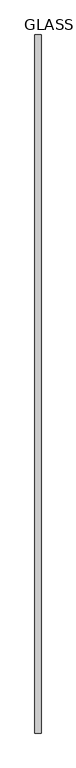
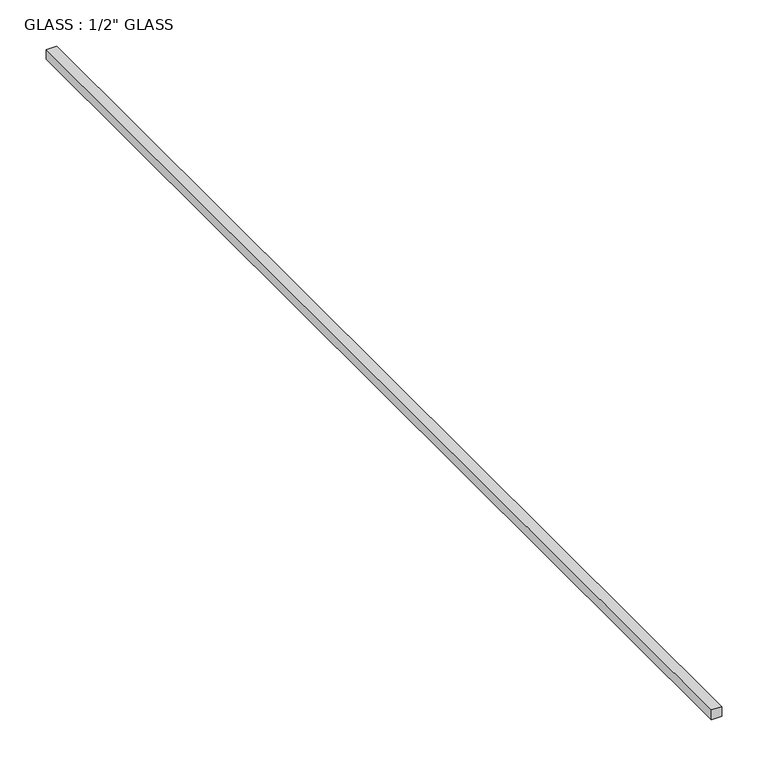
"""IFC4 building model written with IfcOpenShell, lengths in millimetres: proxy geometry."""

import ifcopenshell
import ifcopenshell.guid

model = None  # the IFC model being written
_history = None  # IfcOwnerHistory: only IFC2X3 demands one
_inside = {}  # id of a spatial element -> (the spatial element, [elements in it])
_under = {}  # id of a project, library or spatial element -> (it, [spatial elements below it])
_declared = {}  # id of a project -> (the project, [libraries it declares])
_typed = {}  # id of a type object -> (the type object, [elements of that type])
_made_of = {}  # id of a material, layer set ... -> (it, [elements and type objects made of it])


def new_model(schema):
    """Start an empty IFC model of exactly this schema.

    Asked for "IFC4X3", IfcOpenShell would pick the latest addendum, in which some entities
    have other attributes; the version numbers below select the first issue.
    IFC2X3 requires an IfcOwnerHistory on every rooted entity: one is made here for all.
    """
    global model, _history
    if schema == "IFC4X3":
        model = ifcopenshell.file(schema_version=(4, 3, 0, 0))
    else:
        model = ifcopenshell.file(schema=schema)
    _inside.clear()
    _under.clear()
    _declared.clear()
    _typed.clear()
    _made_of.clear()
    _history = None
    if model.schema == "IFC2X3":
        org = make("IfcOrganization", Name="unknown")
        user = make(
            "IfcPersonAndOrganization",
            ThePerson=make("IfcPerson", FamilyName="unknown"),
            TheOrganization=org,
        )
        app = make(
            "IfcApplication",
            ApplicationDeveloper=org,
            Version="unknown",
            ApplicationFullName="unknown",
            ApplicationIdentifier="unknown",
        )
        _history = make(
            "IfcOwnerHistory",
            OwningUser=user,
            OwningApplication=app,
            ChangeAction="ADDED",
            CreationDate=0,
        )
    return model


def make(cls, **values):
    """One entity of the class cls with the attributes given. An attribute that is None is left unset."""
    return model.create_entity(
        cls, **{name: value for name, value in values.items() if value is not None}
    )


def rooted(cls, **values):
    """An entity with a GlobalId (a new one), such as an element, a storey or a relation."""
    return make(cls, GlobalId=ifcopenshell.guid.new(), OwnerHistory=_history, **values)


def si_unit(unit_type, name, prefix=None):
    """IfcSIUnit, for example si_unit("LENGTHUNIT", "METRE", prefix="MILLI")."""
    return make("IfcSIUnit", UnitType=unit_type, Prefix=prefix, Name=name)


def assignment(units):
    """IfcUnitAssignment: the units of a project."""
    return None if units is None else make("IfcUnitAssignment", Units=units)


def point(xyz):
    """IfcCartesianPoint."""
    return None if xyz is None else make("IfcCartesianPoint", Coordinates=xyz)


def direction(xyz):
    """IfcDirection."""
    return None if xyz is None else make("IfcDirection", DirectionRatios=xyz)


def frame(location, z_axis=None, x_axis=None):
    """IfcAxis2Placement3D, a coordinate frame: its origin and axes. An axis left out is left unset."""
    return make(
        "IfcAxis2Placement3D",
        Location=point(location),
        Axis=direction(z_axis),
        RefDirection=direction(x_axis),
    )


def origin():
    """The frame at (0, 0, 0) with its axes left unset."""
    return frame((0.0, 0.0, 0.0))


def place(relative_to, where):
    """IfcLocalPlacement: puts the frame where relative to a parent placement (None: the world)."""
    return make(
        "IfcLocalPlacement", PlacementRelTo=relative_to, RelativePlacement=where
    )


def context(
    kind, dimensions, precision=None, world=None, true_north=None, identifier=None
):
    """IfcGeometricRepresentationContext, for example the 3D "Model" context."""
    return make(
        "IfcGeometricRepresentationContext",
        ContextIdentifier=identifier,
        ContextType=kind,
        CoordinateSpaceDimension=dimensions,
        Precision=precision,
        WorldCoordinateSystem=world,
        TrueNorth=true_north,
    )


def project(units=None, contexts=None):
    """IfcProject with its units and contexts."""
    return rooted(
        "IfcProject",
        Name="project",
        RepresentationContexts=contexts,
        UnitsInContext=assignment(units),
    )


def spatial(cls, under=None, at=None, **own):
    """A site, building, storey or space (cls), placed at a placement, below another one or the project."""
    s = rooted(cls, ObjectPlacement=at, **own)
    if under is not None:
        _under.setdefault(under.id(), (under, []))[1].append(s)
    return s


def polyline(points):
    """IfcPolyline through the points."""
    return make("IfcPolyline", Points=[point(p) for p in points])


def outline(outer, holes=None, kind="AREA"):
    """IfcArbitraryClosedProfileDef: a profile drawn as a closed curve; with holes, ...WithVoids."""
    if holes is None:
        return make("IfcArbitraryClosedProfileDef", ProfileType=kind, OuterCurve=outer)
    return make(
        "IfcArbitraryProfileDefWithVoids",
        ProfileType=kind,
        OuterCurve=outer,
        InnerCurves=holes,
    )


def extrude(swept, where, along, depth):
    """IfcExtrudedAreaSolid: the profile swept, set in the frame where, extruded along a direction by depth."""
    return make(
        "IfcExtrudedAreaSolid",
        SweptArea=swept,
        Position=where,
        ExtrudedDirection=direction(along),
        Depth=depth,
    )


def shape(context_of_items, identifier, shape_type, items):
    """IfcShapeRepresentation: the items that make up one representation, for example the "Body"."""
    return make(
        "IfcShapeRepresentation",
        ContextOfItems=context_of_items,
        RepresentationIdentifier=identifier,
        RepresentationType=shape_type,
        Items=items,
    )


def source(mapping_origin, context_of_items, identifier, shape_type, items):
    """IfcRepresentationMap: a shape defined once, which mapped items show again and again."""
    return make(
        "IfcRepresentationMap",
        MappingOrigin=mapping_origin,
        MappedRepresentation=shape(context_of_items, identifier, shape_type, items),
    )


def transform(
    local_origin,
    x_axis=None,
    y_axis=None,
    z_axis=None,
    scale=None,
    scale2=None,
    scale3=None,
    uniform=True,
):
    """IfcCartesianTransformationOperator3D, or its non-uniform kind. x_axis, y_axis, z_axis: its Axis1, 2, 3."""
    if uniform:
        return make(
            "IfcCartesianTransformationOperator3D",
            Axis1=direction(x_axis),
            Axis2=direction(y_axis),
            LocalOrigin=point(local_origin),
            Scale=scale,
            Axis3=direction(z_axis),
        )
    return make(
        "IfcCartesianTransformationOperator3DnonUniform",
        Axis1=direction(x_axis),
        Axis2=direction(y_axis),
        LocalOrigin=point(local_origin),
        Scale=scale,
        Axis3=direction(z_axis),
        Scale2=scale2,
        Scale3=scale3,
    )


def mapped(mapping_source, mapping_target):
    """IfcMappedItem: shows the shape of a source again, moved by a transform."""
    return make(
        "IfcMappedItem", MappingSource=mapping_source, MappingTarget=mapping_target
    )


def made_of(thing, what):
    """Note that an element or type object is made of a material, layer set ...; save() writes the relation."""
    if what is not None:
        _made_of.setdefault(what.id(), (what, []))[1].append(thing)
    return thing


def element(
    cls,
    number,
    at=None,
    inside=None,
    cuts=None,
    type_object=None,
    material=None,
    context=None,
    identifier="Body",
    shape_type=None,
    held_by="IfcProductDefinitionShape",
    body=None,
    shapes=None,
    **own,
):
    """One element of the class cls, such as IfcWall. Its Tag is "e" and its number.

    at: its placement. inside: the storey or other place that contains it. cuts: it is an
    opening in that element (IfcRelVoidsElement). A single representation is given by context,
    identifier, shape_type and body (its items); several are given by shapes. held_by: the class
    of the entity that holds the representations. save() writes the other relations.
    """
    e = rooted(cls, Tag="e%d" % number, ObjectPlacement=at, **own)
    if body is not None:
        shapes = [shape(context, identifier, shape_type, body)]
    if shapes is not None:
        e.Representation = make(held_by, Representations=shapes)
    if inside is not None:
        _inside.setdefault(inside.id(), (inside, []))[1].append(e)
    if cuts is not None:
        rooted(
            "IfcRelVoidsElement", RelatingBuildingElement=cuts, RelatedOpeningElement=e
        )
    if type_object is not None:
        _typed.setdefault(type_object.id(), (type_object, []))[1].append(e)
    return made_of(e, material)


def aggregate(whole, parts):
    """IfcRelAggregates: a whole, such as a stair, and the parts it consists of."""
    return rooted("IfcRelAggregates", RelatingObject=whole, RelatedObjects=parts)


def save(model, path):
    """Write the relations noted so far, then the file.

    IfcRelAggregates (storeys below a building ...), IfcRelContainedInSpatialStructure (elements
    in a storey), IfcRelDefinesByType, IfcRelAssociatesMaterial and IfcRelDeclares: one each for
    every whole, place, type object, material and project.
    """
    for whole, parts in _under.values():
        aggregate(whole, parts)
    for where, things in _inside.values():
        rooted(
            "IfcRelContainedInSpatialStructure",
            RelatedElements=things,
            RelatingStructure=where,
        )
    for kind, things in _typed.values():
        rooted("IfcRelDefinesByType", RelatedObjects=things, RelatingType=kind)
    for what, things in _made_of.values():
        rooted("IfcRelAssociatesMaterial", RelatedObjects=things, RelatingMaterial=what)
    for by, libraries in _declared.values():
        rooted("IfcRelDeclares", RelatingContext=by, RelatedDefinitions=libraries)
    model.write(path)


def proxy_2397db0d(model_context):
    return source(origin(), model_context, "Body", "SweptSolid", [
        extrude(outline(polyline([(-6.35, 0.0), (6.35, 0.0), (6.35, -1434.9730821), (-6.35, -1434.9730821), (-6.35, 0.0)])), frame((0.0, 0.0, -6.35), z_axis=(0.0, 0.0, 1.0), x_axis=(1.0, 0.0, 0.0)), (0.0, 0.0, 1.0), 12.7),
    ])


if __name__ == "__main__":
    model = new_model("IFC4")
    model_context = context("Model", 3, world=origin())
    ifc_project = project(units=[si_unit("LENGTHUNIT", "METRE", prefix="MILLI")], contexts=[model_context])
    site = spatial("IfcSite", under=ifc_project)
    building = spatial("IfcBuilding", under=site)
    placement = place(None, origin())
    proxy_shape = proxy_2397db0d(model_context)
    element("IfcBuildingElementProxy", 1, Name="GLASS : 1/2\" GLASS", ObjectType="GLASS : 1/2\" GLASS", at=placement, inside=building, context=model_context, shape_type="MappedRepresentation", body=[
        mapped(proxy_shape, transform((0.0, 0.0, 0.0), x_axis=(1.0, 0.0, 0.0), y_axis=(0.0, 1.0, 0.0), z_axis=(0.0, 0.0, 1.0))),
    ])
    save(model, "model.ifc")
